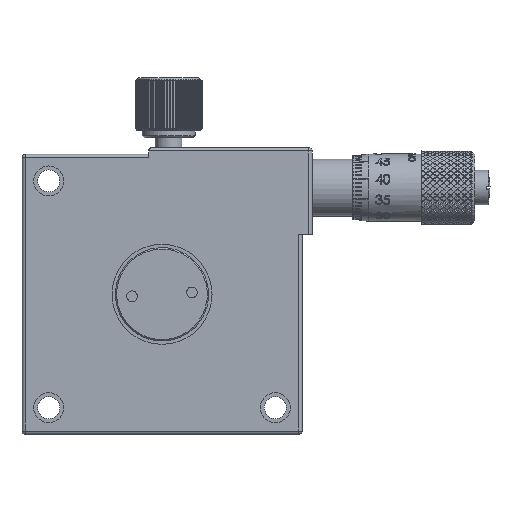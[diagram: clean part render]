
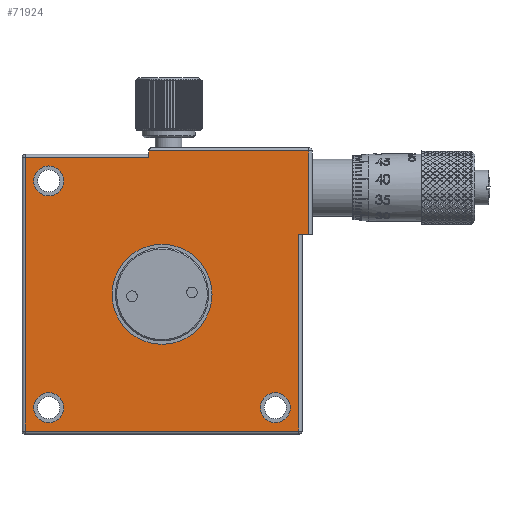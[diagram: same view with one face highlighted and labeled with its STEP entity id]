
A CAD part, front view. The second image highlights one B-rep face of the part: STEP entity #71924.
In plain terms, the highlighted planar face has unit normal (0, -1, 0).
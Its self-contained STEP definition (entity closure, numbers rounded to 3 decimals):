
#1715 = VERTEX_POINT ( 'NONE', #84619 ) ;
#1728 = VERTEX_POINT ( 'NONE', #84626 ) ;
#1731 = VERTEX_POINT ( 'NONE', #84628 ) ;
#1754 = VERTEX_POINT ( 'NONE', #84639 ) ;
#11818 = CARTESIAN_POINT ( 'NONE',  ( -90.744, -36.83, 67.063 ) ) ;
#11819 = DIRECTION ( 'NONE',  ( 0., -1., 0. ) ) ;
#11821 = DIRECTION ( 'NONE',  ( 1., 0., 0. ) ) ;
#29651 = ORIENTED_EDGE ( 'NONE', *, *, #58112, .F. ) ;
#29652 = ORIENTED_EDGE ( 'NONE', *, *, #76047, .T. ) ;
#29653 = ORIENTED_EDGE ( 'NONE', *, *, #76049, .T. ) ;
#29654 = ORIENTED_EDGE ( 'NONE', *, *, #76175, .T. ) ;
#29655 = ORIENTED_EDGE ( 'NONE', *, *, #76168, .T. ) ;
#29656 = ORIENTED_EDGE ( 'NONE', *, *, #52978, .T. ) ;
#29657 = ORIENTED_EDGE ( 'NONE', *, *, #52939, .T. ) ;
#29658 = ORIENTED_EDGE ( 'NONE', *, *, #52915, .T. ) ;
#29659 = ORIENTED_EDGE ( 'NONE', *, *, #52981, .T. ) ;
#29660 = ORIENTED_EDGE ( 'NONE', *, *, #76152, .T. ) ;
#29661 = ORIENTED_EDGE ( 'NONE', *, *, #76147, .T. ) ;
#29662 = ORIENTED_EDGE ( 'NONE', *, *, #76173, .T. ) ;
#49137 = EDGE_LOOP ( 'NONE', ( #29651 ) ) ;
#49138 = EDGE_LOOP ( 'NONE', ( #29652 ) ) ;
#49140 = EDGE_LOOP ( 'NONE', ( #29662, #29661, #29660, #29659, #29658, #29657, #29656, #29655 ) ) ;
#49142 = EDGE_LOOP ( 'NONE', ( #29653 ) ) ;
#49151 = EDGE_LOOP ( 'NONE', ( #29654 ) ) ;
#52915 = EDGE_CURVE ( 'NONE', #70993, #71001, #171317, .T. ) ;
#52939 = EDGE_CURVE ( 'NONE', #71001, #70999, #171384, .T. ) ;
#52978 = EDGE_CURVE ( 'NONE', #70999, #71003, #171469, .T. ) ;
#52981 = EDGE_CURVE ( 'NONE', #70990, #70993, #171480, .T. ) ;
#58112 = EDGE_CURVE ( 'NONE', #1715, #1715, #172987, .T. ) ;
#70921 = VERTEX_POINT ( 'NONE', #105080 ) ;
#70930 = VERTEX_POINT ( 'NONE', #105084 ) ;
#70945 = VERTEX_POINT ( 'NONE', #106778 ) ;
#70990 = VERTEX_POINT ( 'NONE', #106799 ) ;
#70993 = VERTEX_POINT ( 'NONE', #106800 ) ;
#70999 = VERTEX_POINT ( 'NONE', #106803 ) ;
#71001 = VERTEX_POINT ( 'NONE', #106804 ) ;
#71003 = VERTEX_POINT ( 'NONE', #106805 ) ;
#71924 = ADVANCED_FACE ( 'NONE', ( #105390, #105407, #105397, #105405, #105401 ), #106969, .T. ) ;
#76047 = EDGE_CURVE ( 'NONE', #1728, #1728, #169751, .T. ) ;
#76049 = EDGE_CURVE ( 'NONE', #1731, #1731, #169765, .T. ) ;
#76147 = EDGE_CURVE ( 'NONE', #70945, #70930, #203919, .T. ) ;
#76152 = EDGE_CURVE ( 'NONE', #70930, #70990, #203929, .T. ) ;
#76168 = EDGE_CURVE ( 'NONE', #71003, #70921, #203967, .T. ) ;
#76173 = EDGE_CURVE ( 'NONE', #70921, #70945, #203976, .T. ) ;
#76175 = EDGE_CURVE ( 'NONE', #1754, #1754, #203983, .T. ) ;
#84619 = CARTESIAN_POINT ( 'NONE',  ( -83.244, -36.83, 67.063 ) ) ;
#84626 = CARTESIAN_POINT ( 'NONE',  ( -109.994, -36.83, 84.063 ) ) ;
#84628 = CARTESIAN_POINT ( 'NONE',  ( -109.994, -36.83, 50.063 ) ) ;
#84639 = CARTESIAN_POINT ( 'NONE',  ( -75.994, -36.83, 50.063 ) ) ;
#95407 = AXIS2_PLACEMENT_3D ( 'NONE', #11818, #11819, #11821 ) ;
#105080 = CARTESIAN_POINT ( 'NONE',  ( -68.744, -36.83, 76.063 ) ) ;
#105084 = CARTESIAN_POINT ( 'NONE',  ( -92.744, -36.83, 88.563 ) ) ;
#105390 = FACE_OUTER_BOUND ( 'NONE', #49140, .T. ) ;
#105397 = FACE_BOUND ( 'NONE', #49142, .T. ) ;
#105401 = FACE_BOUND ( 'NONE', #49137, .T. ) ;
#105405 = FACE_BOUND ( 'NONE', #49138, .T. ) ;
#105407 = FACE_BOUND ( 'NONE', #49151, .T. ) ;
#106778 = CARTESIAN_POINT ( 'NONE',  ( -68.744, -36.83, 88.563 ) ) ;
#106799 = CARTESIAN_POINT ( 'NONE',  ( -92.744, -36.83, 87.563 ) ) ;
#106800 = CARTESIAN_POINT ( 'NONE',  ( -111.244, -36.83, 87.563 ) ) ;
#106803 = CARTESIAN_POINT ( 'NONE',  ( -70.244, -36.83, 46.563 ) ) ;
#106804 = CARTESIAN_POINT ( 'NONE',  ( -111.244, -36.83, 46.563 ) ) ;
#106805 = CARTESIAN_POINT ( 'NONE',  ( -70.244, -36.83, 76.063 ) ) ;
#106965 = DIRECTION ( 'NONE',  ( 0., -1., 0. ) ) ;
#106966 = CARTESIAN_POINT ( 'NONE',  ( -89.994, -36.83, 67.563 ) ) ;
#106969 = PLANE ( 'NONE',  #186902 ) ;
#106972 = DIRECTION ( 'NONE',  ( 1., 0., 0. ) ) ;
#134492 = DIRECTION ( 'NONE',  ( 0., 0., -1. ) ) ;
#134504 = CARTESIAN_POINT ( 'NONE',  ( -111.244, -36.83, 46.063 ) ) ;
#134512 = DIRECTION ( 'NONE',  ( 1., 0., 0. ) ) ;
#134555 = CARTESIAN_POINT ( 'NONE',  ( -69.744, -36.83, 46.563 ) ) ;
#134629 = CARTESIAN_POINT ( 'NONE',  ( -70.244, -36.83, 76.063 ) ) ;
#134632 = DIRECTION ( 'NONE',  ( 0., 0., 1. ) ) ;
#134634 = CARTESIAN_POINT ( 'NONE',  ( -111.744, -36.83, 87.563 ) ) ;
#134635 = DIRECTION ( 'NONE',  ( -1., 0., 0. ) ) ;
#140176 = AXIS2_PLACEMENT_3D ( 'NONE', #197133, #197136, #197140 ) ;
#140181 = AXIS2_PLACEMENT_3D ( 'NONE', #197163, #197167, #197170 ) ;
#140263 = AXIS2_PLACEMENT_3D ( 'NONE', #198142, #198146, #198149 ) ;
#169751 = CIRCLE ( 'NONE', #140176, 2.25 ) ;
#169765 = CIRCLE ( 'NONE', #140181, 2.25 ) ;
#171317 = LINE ( 'NONE', #134504, #171339 ) ;
#171339 = VECTOR ( 'NONE', #134492, 1000. ) ;
#171384 = LINE ( 'NONE', #134555, #171401 ) ;
#171401 = VECTOR ( 'NONE', #134512, 1000. ) ;
#171469 = LINE ( 'NONE', #134629, #171485 ) ;
#171480 = LINE ( 'NONE', #134634, #171497 ) ;
#171485 = VECTOR ( 'NONE', #134632, 1000. ) ;
#171497 = VECTOR ( 'NONE', #134635, 1000. ) ;
#172987 = CIRCLE ( 'NONE', #95407, 7.5 ) ;
#186902 = AXIS2_PLACEMENT_3D ( 'NONE', #106966, #106965, #106972 ) ;
#197133 = CARTESIAN_POINT ( 'NONE',  ( -107.744, -36.83, 84.063 ) ) ;
#197136 = DIRECTION ( 'NONE',  ( 0., 1., 0. ) ) ;
#197140 = DIRECTION ( 'NONE',  ( -1., 0., 0. ) ) ;
#197163 = CARTESIAN_POINT ( 'NONE',  ( -107.744, -36.83, 50.063 ) ) ;
#197167 = DIRECTION ( 'NONE',  ( 0., 1., 0. ) ) ;
#197170 = DIRECTION ( 'NONE',  ( -1., 0., 0. ) ) ;
#197998 = CARTESIAN_POINT ( 'NONE',  ( -92.744, -36.83, 88.563 ) ) ;
#198004 = DIRECTION ( 'NONE',  ( -1., 0., 0. ) ) ;
#198017 = CARTESIAN_POINT ( 'NONE',  ( -92.744, -36.83, 89.063 ) ) ;
#198022 = DIRECTION ( 'NONE',  ( 0., 0., -1. ) ) ;
#198074 = CARTESIAN_POINT ( 'NONE',  ( -68.244, -36.83, 76.063 ) ) ;
#198077 = DIRECTION ( 'NONE',  ( 1., 0., 0. ) ) ;
#198121 = CARTESIAN_POINT ( 'NONE',  ( -68.744, -36.83, 89.063 ) ) ;
#198127 = DIRECTION ( 'NONE',  ( 0., 0., 1. ) ) ;
#198142 = CARTESIAN_POINT ( 'NONE',  ( -73.744, -36.83, 50.063 ) ) ;
#198146 = DIRECTION ( 'NONE',  ( 0., 1., 0. ) ) ;
#198149 = DIRECTION ( 'NONE',  ( -1., 0., 0. ) ) ;
#203919 = LINE ( 'NONE', #197998, #203926 ) ;
#203926 = VECTOR ( 'NONE', #198004, 1000. ) ;
#203929 = LINE ( 'NONE', #198017, #203938 ) ;
#203938 = VECTOR ( 'NONE', #198022, 1000. ) ;
#203967 = LINE ( 'NONE', #198074, #203973 ) ;
#203973 = VECTOR ( 'NONE', #198077, 1000. ) ;
#203976 = LINE ( 'NONE', #198121, #203986 ) ;
#203983 = CIRCLE ( 'NONE', #140263, 2.25 ) ;
#203986 = VECTOR ( 'NONE', #198127, 1000. ) ;
